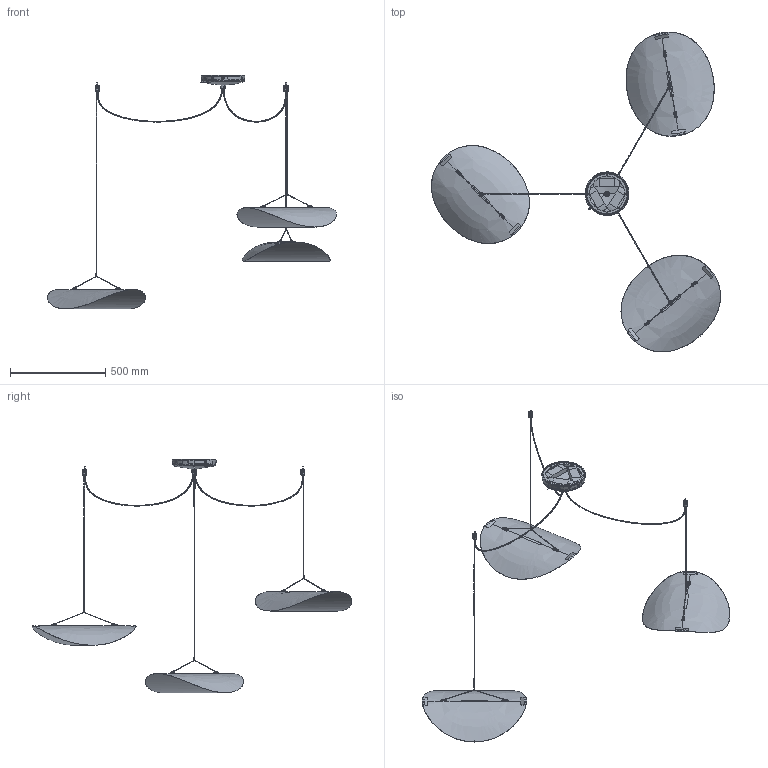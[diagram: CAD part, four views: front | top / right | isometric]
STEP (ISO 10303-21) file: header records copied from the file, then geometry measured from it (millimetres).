
FILE_DESCRIPTION(/* description */ (''),/* implementation_level */ '2;1');
FILE_NAME(/* name */ 'Tense Chandelier',/* time_stamp */ '2023-05-25T13:50:33+02:00',/* author */ (''),/* organization */ (''),/* preprocessor_version */ 'ST-DEVELOPER v16.5',/* originating_system */ 'Rhino 7.29',/* authorisation */ '');
FILE_SCHEMA (('CONFIG_CONTROL_DESIGN'));
Products named in the file (18): Document; LED_DRIVER_CE; M6_SET_SCREW1; M20X1_5NUT; M20_TEETH_WASHER; CABLE_SOCKET_SCREW_3; M4X6_SET_SCREW; CANOPY_SCREW_M4; RUBBER_PLUG; CANOPY_US_B; M4X5PM; GROUND_WIRE; TOOTH_WASHER_M4; CANOPY_US_BRACKET_B; WIRE_CLIP; WIRE_CLIP_TOP; M4X4_SET_SCREW; ST4X16
Assembly tree (34 placements, depth 2):
  Document
    LED_DRIVER_CE  x3
    M6_SET_SCREW1  x3
    M20X1_5NUT
    M20_TEETH_WASHER
    CABLE_SOCKET_SCREW_3
    M4X6_SET_SCREW
    CANOPY_SCREW_M4  x3
    RUBBER_PLUG
    CANOPY_US_B
    M4X5PM
    GROUND_WIRE
    TOOTH_WASHER_M4
    CANOPY_US_BRACKET_B
    WIRE_CLIP  x3
    WIRE_CLIP_TOP  x3
    M4X4_SET_SCREW  x6
    ST4X16  x3
Bounding box: 1520.22 x 1682.03 x 1228.65 mm (x, y, z)
Volume: 1099634.4 mm3; surface area: 2925590.2 mm2
Topology: 75 solids, 94 shells, 4643 faces, 12087 edges, 7686 vertices
Faces by surface type: bspline 2280, plane 1787, cylinder 576
Full cylindrical faces by diameter (mm): 4 x6
Entity records: 258515 total; most frequent: CARTESIAN_POINT 187870, ORIENTED_EDGE 21747, EDGE_CURVE 10903, B_SPLINE_CURVE_WITH_KNOTS 8740, VERTEX_POINT 6968, EDGE_LOOP 4464, ADVANCED_FACE 4178, FACE_OUTER_BOUND 4178
